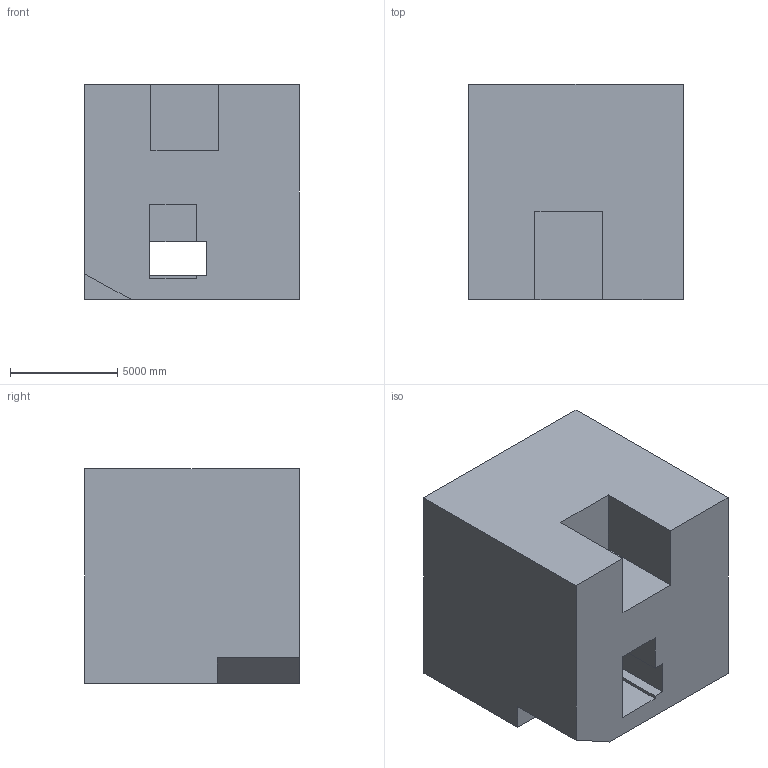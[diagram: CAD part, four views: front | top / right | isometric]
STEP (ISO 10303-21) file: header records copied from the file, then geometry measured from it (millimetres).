
FILE_DESCRIPTION (( 'STEP AP203' ), '1' );
FILE_NAME ('364.STEP', '2022-07-28T14:29:55', ( 'user' ), ( '' ), 'SwSTEP 2.0', 'SolidWorks 2021', '' );
FILE_SCHEMA (( 'CONFIG_CONTROL_DESIGN' ));
Length unit declared in the file: centimetre
Products named in the file (1): 364
Bounding box: 10000 x 10000 x 10000 mm (x, y, z)
Volume: 900897593739.7 mm3; surface area: 709681297.5 mm2
Topology: 1 solids, 1 shells, 22 faces, 60 edges, 40 vertices
Faces by surface type: plane 22
Entity records: 765 total; most frequent: CARTESIAN_POINT 123, ORIENTED_EDGE 120, DIRECTION 106, EDGE_CURVE 60, LINE 60, VECTOR 60, VERTEX_POINT 40, EDGE_LOOP 24
